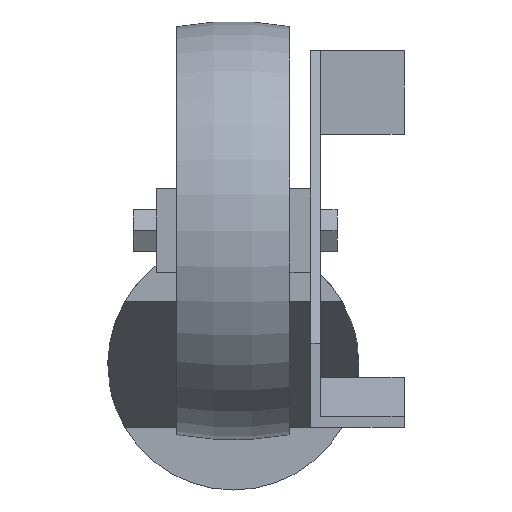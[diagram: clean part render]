
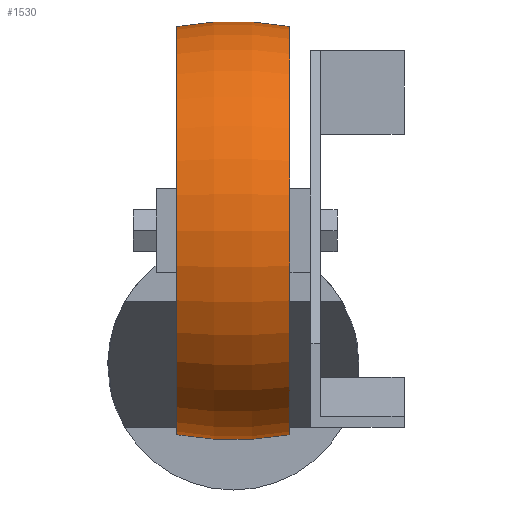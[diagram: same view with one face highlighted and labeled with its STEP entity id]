
A CAD part, front view. The second image highlights one B-rep face of the part: STEP entity #1530.
In plain terms, the highlighted toroidal (fillet/blend) face has major radius 25 mm and minor radius 75 mm.
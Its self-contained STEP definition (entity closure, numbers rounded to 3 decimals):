
#25 = CIRCLE ( 'NONE', #253, 75. ) ;
#168 = DIRECTION ( 'NONE',  ( -1., 0., 0. ) ) ;
#203 = AXIS2_PLACEMENT_3D ( 'NONE', #987, #1521, #969 ) ;
#242 = EDGE_CURVE ( 'NONE', #1583, #1394, #1555, .T. ) ;
#253 = AXIS2_PLACEMENT_3D ( 'NONE', #452, #348, #1029 ) ;
#348 = DIRECTION ( 'NONE',  ( 0., 1., 0. ) ) ;
#408 = ORIENTED_EDGE ( 'NONE', *, *, #1403, .T. ) ;
#452 = CARTESIAN_POINT ( 'NONE',  ( 0., -77., 57. ) ) ;
#674 = AXIS2_PLACEMENT_3D ( 'NONE', #972, #168, #1102 ) ;
#713 = DIRECTION ( 'NONE',  ( 0., 0., 1. ) ) ;
#735 = VERTEX_POINT ( 'NONE', #1629 ) ;
#753 = AXIS2_PLACEMENT_3D ( 'NONE', #1384, #1670, #713 ) ;
#822 = EDGE_LOOP ( 'NONE', ( #967, #408, #1291, #935 ) ) ;
#875 = CIRCLE ( 'NONE', #1267, 48.775 ) ;
#891 = CARTESIAN_POINT ( 'NONE',  ( 13.5, -77., 32. ) ) ;
#907 = VERTEX_POINT ( 'NONE', #1659 ) ;
#920 = EDGE_CURVE ( 'NONE', #907, #1394, #1290, .T. ) ;
#935 = ORIENTED_EDGE ( 'NONE', *, *, #920, .F. ) ;
#967 = ORIENTED_EDGE ( 'NONE', *, *, #1648, .F. ) ;
#969 = DIRECTION ( 'NONE',  ( 0., 0., -1. ) ) ;
#972 = CARTESIAN_POINT ( 'NONE',  ( 0., -77., 32. ) ) ;
#987 = CARTESIAN_POINT ( 'NONE',  ( 0., -77., 7. ) ) ;
#1029 = DIRECTION ( 'NONE',  ( 0., 0., 1. ) ) ;
#1102 = DIRECTION ( 'NONE',  ( 0., 0., 1. ) ) ;
#1141 = CARTESIAN_POINT ( 'NONE',  ( 13.5, -77., 80.775 ) ) ;
#1267 = AXIS2_PLACEMENT_3D ( 'NONE', #891, #1424, #1307 ) ;
#1290 = CIRCLE ( 'NONE', #753, 48.775 ) ;
#1291 = ORIENTED_EDGE ( 'NONE', *, *, #242, .T. ) ;
#1307 = DIRECTION ( 'NONE',  ( 0., 0., 1. ) ) ;
#1384 = CARTESIAN_POINT ( 'NONE',  ( -13.5, -77., 32. ) ) ;
#1394 = VERTEX_POINT ( 'NONE', #1415 ) ;
#1403 = EDGE_CURVE ( 'NONE', #735, #1583, #875, .T. ) ;
#1415 = CARTESIAN_POINT ( 'NONE',  ( -13.5, -77., 80.775 ) ) ;
#1424 = DIRECTION ( 'NONE',  ( -1., 0., 0. ) ) ;
#1521 = DIRECTION ( 'NONE',  ( 0., -1., 0. ) ) ;
#1530 = ADVANCED_FACE ( 'NONE', ( #1642 ), #1545, .T. ) ;
#1545 = TOROIDAL_SURFACE ( 'NONE', #674, -25., 75. ) ;
#1555 = CIRCLE ( 'NONE', #203, 75. ) ;
#1583 = VERTEX_POINT ( 'NONE', #1141 ) ;
#1629 = CARTESIAN_POINT ( 'NONE',  ( 13.5, -77., -16.775 ) ) ;
#1642 = FACE_OUTER_BOUND ( 'NONE', #822, .T. ) ;
#1648 = EDGE_CURVE ( 'NONE', #735, #907, #25, .T. ) ;
#1659 = CARTESIAN_POINT ( 'NONE',  ( -13.5, -77., -16.775 ) ) ;
#1670 = DIRECTION ( 'NONE',  ( -1., 0., 0. ) ) ;
